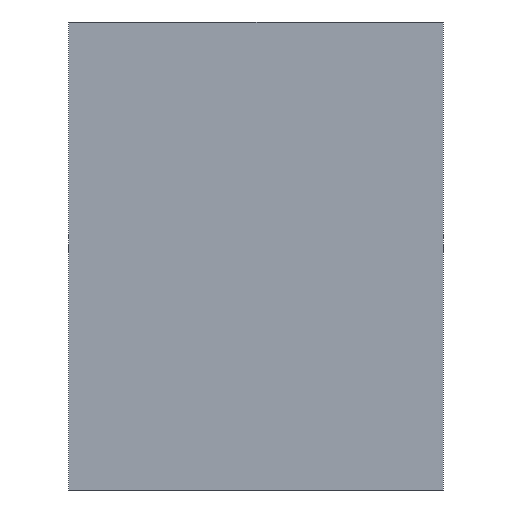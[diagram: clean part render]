
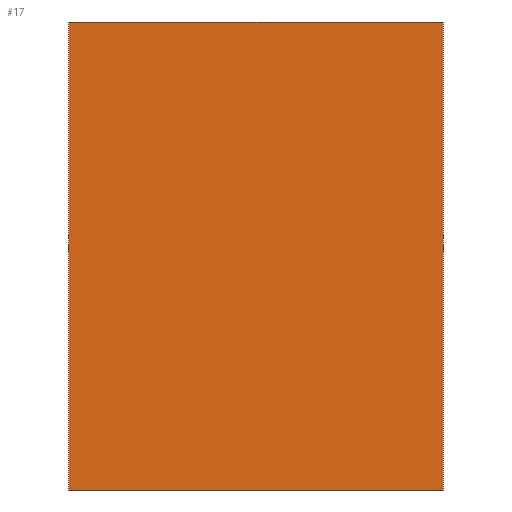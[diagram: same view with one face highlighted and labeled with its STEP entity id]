
A CAD part, left-side view. The second image highlights one B-rep face of the part: STEP entity #17.
In plain terms, the highlighted planar face has unit normal (-1, 0, 0).
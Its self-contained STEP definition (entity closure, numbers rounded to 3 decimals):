
#17 = ADVANCED_FACE('',(#18),#32,.F.);
#18 = FACE_BOUND('',#19,.F.);
#19 = EDGE_LOOP('',(#20,#55,#83,#111));
#20 = ORIENTED_EDGE('',*,*,#21,.F.);
#21 = EDGE_CURVE('',#22,#24,#26,.T.);
#22 = VERTEX_POINT('',#23);
#23 = CARTESIAN_POINT('',(-28.5,-52.94,-15.01));
#24 = VERTEX_POINT('',#25);
#25 = CARTESIAN_POINT('',(-28.5,-52.94,-14.01));
#26 = SURFACE_CURVE('',#27,(#31,#43),.PCURVE_S1.);
#27 = LINE('',#28,#29);
#28 = CARTESIAN_POINT('',(-28.5,-52.94,-15.01));
#29 = VECTOR('',#30,1.);
#30 = DIRECTION('',(0.,0.,1.));
#31 = PCURVE('',#32,#37);
#32 = PLANE('',#33);
#33 = AXIS2_PLACEMENT_3D('',#34,#35,#36);
#34 = CARTESIAN_POINT('',(-28.5,-52.94,-15.01));
#35 = DIRECTION('',(1.,0.,-0.));
#36 = DIRECTION('',(0.,0.,1.));
#37 = DEFINITIONAL_REPRESENTATION('',(#38),#42);
#38 = LINE('',#39,#40);
#39 = CARTESIAN_POINT('',(0.,0.));
#40 = VECTOR('',#41,1.);
#41 = DIRECTION('',(1.,0.));
#42 = ( GEOMETRIC_REPRESENTATION_CONTEXT(2) 
PARAMETRIC_REPRESENTATION_CONTEXT() REPRESENTATION_CONTEXT('2D SPACE',''
  ) );
#43 = PCURVE('',#44,#49);
#44 = PLANE('',#45);
#45 = AXIS2_PLACEMENT_3D('',#46,#47,#48);
#46 = CARTESIAN_POINT('',(-28.5,-52.94,-15.01));
#47 = DIRECTION('',(-0.,1.,0.));
#48 = DIRECTION('',(0.,0.,1.));
#49 = DEFINITIONAL_REPRESENTATION('',(#50),#54);
#50 = LINE('',#51,#52);
#51 = CARTESIAN_POINT('',(0.,0.));
#52 = VECTOR('',#53,1.);
#53 = DIRECTION('',(1.,0.));
#54 = ( GEOMETRIC_REPRESENTATION_CONTEXT(2) 
PARAMETRIC_REPRESENTATION_CONTEXT() REPRESENTATION_CONTEXT('2D SPACE',''
  ) );
#55 = ORIENTED_EDGE('',*,*,#56,.T.);
#56 = EDGE_CURVE('',#22,#57,#59,.T.);
#57 = VERTEX_POINT('',#58);
#58 = CARTESIAN_POINT('',(-28.5,-52.14,-15.01));
#59 = SURFACE_CURVE('',#60,(#64,#71),.PCURVE_S1.);
#60 = LINE('',#61,#62);
#61 = CARTESIAN_POINT('',(-28.5,-52.94,-15.01));
#62 = VECTOR('',#63,1.);
#63 = DIRECTION('',(-0.,1.,0.));
#64 = PCURVE('',#32,#65);
#65 = DEFINITIONAL_REPRESENTATION('',(#66),#70);
#66 = LINE('',#67,#68);
#67 = CARTESIAN_POINT('',(0.,0.));
#68 = VECTOR('',#69,1.);
#69 = DIRECTION('',(0.,-1.));
#70 = ( GEOMETRIC_REPRESENTATION_CONTEXT(2) 
PARAMETRIC_REPRESENTATION_CONTEXT() REPRESENTATION_CONTEXT('2D SPACE',''
  ) );
#71 = PCURVE('',#72,#77);
#72 = PLANE('',#73);
#73 = AXIS2_PLACEMENT_3D('',#74,#75,#76);
#74 = CARTESIAN_POINT('',(-28.5,-52.94,-15.01));
#75 = DIRECTION('',(0.,0.,1.));
#76 = DIRECTION('',(1.,0.,-0.));
#77 = DEFINITIONAL_REPRESENTATION('',(#78),#82);
#78 = LINE('',#79,#80);
#79 = CARTESIAN_POINT('',(0.,0.));
#80 = VECTOR('',#81,1.);
#81 = DIRECTION('',(0.,1.));
#82 = ( GEOMETRIC_REPRESENTATION_CONTEXT(2) 
PARAMETRIC_REPRESENTATION_CONTEXT() REPRESENTATION_CONTEXT('2D SPACE',''
  ) );
#83 = ORIENTED_EDGE('',*,*,#84,.T.);
#84 = EDGE_CURVE('',#57,#85,#87,.T.);
#85 = VERTEX_POINT('',#86);
#86 = CARTESIAN_POINT('',(-28.5,-52.14,-14.01));
#87 = SURFACE_CURVE('',#88,(#92,#99),.PCURVE_S1.);
#88 = LINE('',#89,#90);
#89 = CARTESIAN_POINT('',(-28.5,-52.14,-15.01));
#90 = VECTOR('',#91,1.);
#91 = DIRECTION('',(0.,0.,1.));
#92 = PCURVE('',#32,#93);
#93 = DEFINITIONAL_REPRESENTATION('',(#94),#98);
#94 = LINE('',#95,#96);
#95 = CARTESIAN_POINT('',(0.,-0.8));
#96 = VECTOR('',#97,1.);
#97 = DIRECTION('',(1.,0.));
#98 = ( GEOMETRIC_REPRESENTATION_CONTEXT(2) 
PARAMETRIC_REPRESENTATION_CONTEXT() REPRESENTATION_CONTEXT('2D SPACE',''
  ) );
#99 = PCURVE('',#100,#105);
#100 = PLANE('',#101);
#101 = AXIS2_PLACEMENT_3D('',#102,#103,#104);
#102 = CARTESIAN_POINT('',(-28.5,-52.14,-15.01));
#103 = DIRECTION('',(-0.,1.,0.));
#104 = DIRECTION('',(0.,0.,1.));
#105 = DEFINITIONAL_REPRESENTATION('',(#106),#110);
#106 = LINE('',#107,#108);
#107 = CARTESIAN_POINT('',(0.,0.));
#108 = VECTOR('',#109,1.);
#109 = DIRECTION('',(1.,0.));
#110 = ( GEOMETRIC_REPRESENTATION_CONTEXT(2) 
PARAMETRIC_REPRESENTATION_CONTEXT() REPRESENTATION_CONTEXT('2D SPACE',''
  ) );
#111 = ORIENTED_EDGE('',*,*,#112,.F.);
#112 = EDGE_CURVE('',#24,#85,#113,.T.);
#113 = SURFACE_CURVE('',#114,(#118,#125),.PCURVE_S1.);
#114 = LINE('',#115,#116);
#115 = CARTESIAN_POINT('',(-28.5,-52.94,-14.01));
#116 = VECTOR('',#117,1.);
#117 = DIRECTION('',(-0.,1.,0.));
#118 = PCURVE('',#32,#119);
#119 = DEFINITIONAL_REPRESENTATION('',(#120),#124);
#120 = LINE('',#121,#122);
#121 = CARTESIAN_POINT('',(1.,0.));
#122 = VECTOR('',#123,1.);
#123 = DIRECTION('',(0.,-1.));
#124 = ( GEOMETRIC_REPRESENTATION_CONTEXT(2) 
PARAMETRIC_REPRESENTATION_CONTEXT() REPRESENTATION_CONTEXT('2D SPACE',''
  ) );
#125 = PCURVE('',#126,#131);
#126 = PLANE('',#127);
#127 = AXIS2_PLACEMENT_3D('',#128,#129,#130);
#128 = CARTESIAN_POINT('',(-28.5,-52.94,-14.01));
#129 = DIRECTION('',(0.,0.,1.));
#130 = DIRECTION('',(1.,0.,-0.));
#131 = DEFINITIONAL_REPRESENTATION('',(#132),#136);
#132 = LINE('',#133,#134);
#133 = CARTESIAN_POINT('',(0.,0.));
#134 = VECTOR('',#135,1.);
#135 = DIRECTION('',(0.,1.));
#136 = ( GEOMETRIC_REPRESENTATION_CONTEXT(2) 
PARAMETRIC_REPRESENTATION_CONTEXT() REPRESENTATION_CONTEXT('2D SPACE',''
  ) );
